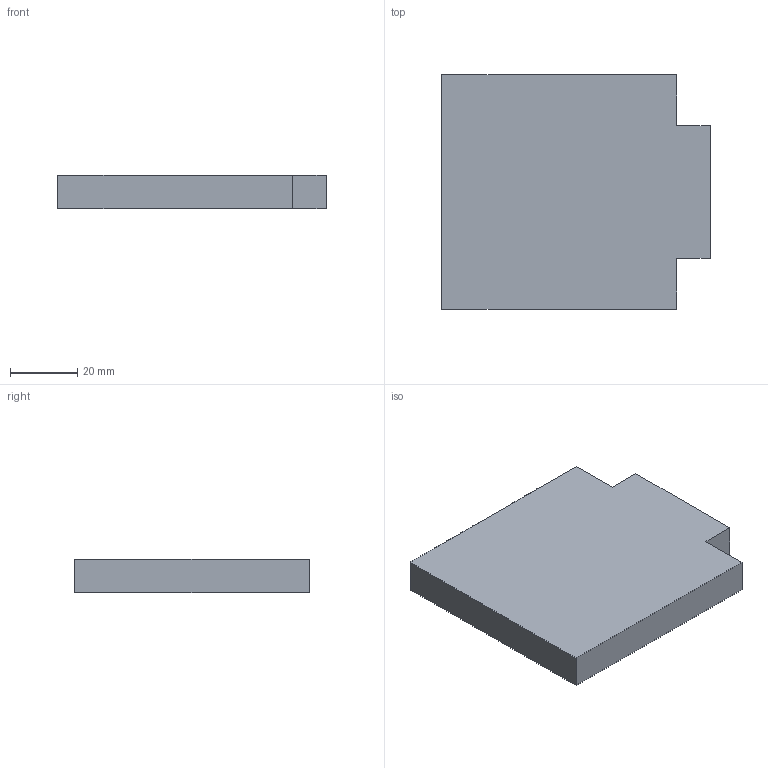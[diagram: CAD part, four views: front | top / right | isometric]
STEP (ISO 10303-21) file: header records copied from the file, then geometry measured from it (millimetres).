
FILE_DESCRIPTION(('CATIA V5 STEP Exchange'),'2;1');
FILE_NAME('C:\Users\gener\Documents\Lijadora Javitxu corte laser\pletina mesa horizontal.stp','2022-08-29T05:42:54+00:00',('none'),('none'),'CATIA Version 5 Release 20 GA (IN-10)','CATIA V5 STEP AP203','none');
FILE_SCHEMA(('CONFIG_CONTROL_DESIGN'));
Length unit declared in the file: millimetre
Products named in the file (1): pletina mesa horizontal
Bounding box: 80 x 70 x 10 mm (x, y, z)
Volume: 52960 mm3; surface area: 13592 mm2
Topology: 1 solids, 1 shells, 10 faces, 24 edges, 16 vertices
Faces by surface type: plane 10
Entity records: 325 total; most frequent: CARTESIAN_POINT 50, ORIENTED_EDGE 48, DIRECTION 42, VECTOR 24, EDGE_CURVE 24, LINE 24, VERTEX_POINT 16, AXIS2_PLACEMENT_3D 10
